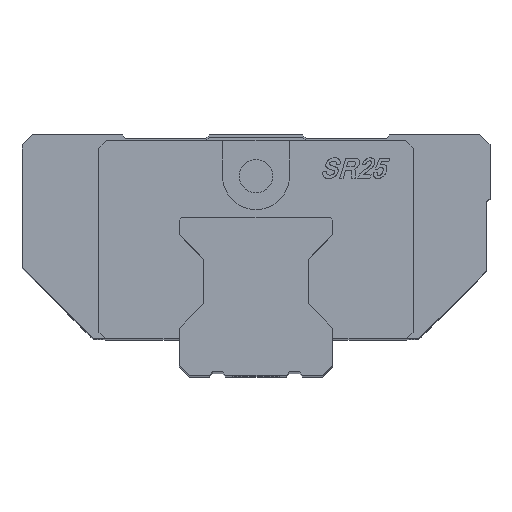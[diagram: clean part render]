
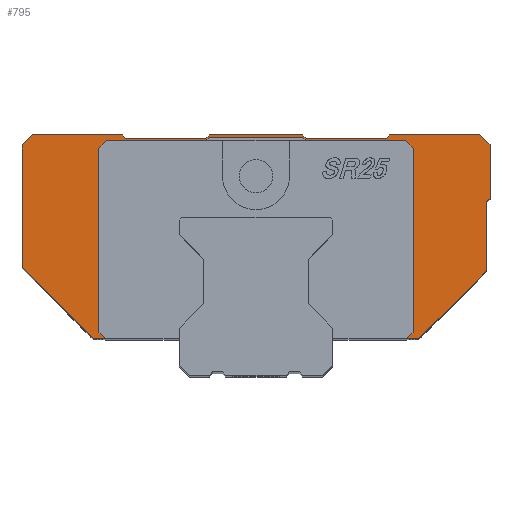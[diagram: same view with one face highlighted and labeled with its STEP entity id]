
A CAD part, top view. The second image highlights one B-rep face of the part: STEP entity #795.
In plain terms, the highlighted planar face has unit normal (0, 0, 1).
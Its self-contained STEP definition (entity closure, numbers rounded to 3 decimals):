
#795=ADVANCED_FACE('',(#1180),#1044,.T.);
#1044=PLANE('',#5500);
#1180=FACE_OUTER_BOUND('',#1453,.T.);
#1453=EDGE_LOOP('',(#2182,#2183,#2184,#2185,#2186,#2187,#2188,#2189,#2190,
#2191,#2192,#2193,#2194,#2195,#2196,#2197,#2198,#2199,#2200,#2201,#2202,
#2203,#2204,#2205,#2206,#2207,#2208,#2209,#2210,#2211));
#2182=ORIENTED_EDGE('',*,*,#4005,.F.);
#2183=ORIENTED_EDGE('',*,*,#4006,.F.);
#2184=ORIENTED_EDGE('',*,*,#4007,.F.);
#2185=ORIENTED_EDGE('',*,*,#4008,.F.);
#2186=ORIENTED_EDGE('',*,*,#4009,.F.);
#2187=ORIENTED_EDGE('',*,*,#4010,.F.);
#2188=ORIENTED_EDGE('',*,*,#4011,.F.);
#2189=ORIENTED_EDGE('',*,*,#4012,.F.);
#2190=ORIENTED_EDGE('',*,*,#4013,.F.);
#2191=ORIENTED_EDGE('',*,*,#4014,.F.);
#2192=ORIENTED_EDGE('',*,*,#4015,.F.);
#2193=ORIENTED_EDGE('',*,*,#4016,.F.);
#2194=ORIENTED_EDGE('',*,*,#4017,.F.);
#2195=ORIENTED_EDGE('',*,*,#4018,.F.);
#2196=ORIENTED_EDGE('',*,*,#4019,.F.);
#2197=ORIENTED_EDGE('',*,*,#4020,.F.);
#2198=ORIENTED_EDGE('',*,*,#4021,.F.);
#2199=ORIENTED_EDGE('',*,*,#4022,.F.);
#2200=ORIENTED_EDGE('',*,*,#4023,.F.);
#2201=ORIENTED_EDGE('',*,*,#3971,.F.);
#2202=ORIENTED_EDGE('',*,*,#3980,.F.);
#2203=ORIENTED_EDGE('',*,*,#3982,.F.);
#2204=ORIENTED_EDGE('',*,*,#3989,.F.);
#2205=ORIENTED_EDGE('',*,*,#3992,.F.);
#2206=ORIENTED_EDGE('',*,*,#4004,.F.);
#2207=ORIENTED_EDGE('',*,*,#4024,.F.);
#2208=ORIENTED_EDGE('',*,*,#4025,.F.);
#2209=ORIENTED_EDGE('',*,*,#3997,.F.);
#2210=ORIENTED_EDGE('',*,*,#4026,.F.);
#2211=ORIENTED_EDGE('',*,*,#4027,.F.);
#3419=VERTEX_POINT('',#7776);
#3420=VERTEX_POINT('',#7777);
#3426=VERTEX_POINT('',#7793);
#3427=VERTEX_POINT('',#7797);
#3433=VERTEX_POINT('',#7814);
#3435=VERTEX_POINT('',#7819);
#3438=VERTEX_POINT('',#7827);
#3439=VERTEX_POINT('',#7829);
#3443=VERTEX_POINT('',#7841);
#3444=VERTEX_POINT('',#7845);
#3445=VERTEX_POINT('',#7846);
#3446=VERTEX_POINT('',#7848);
#3447=VERTEX_POINT('',#7850);
#3448=VERTEX_POINT('',#7852);
#3449=VERTEX_POINT('',#7854);
#3450=VERTEX_POINT('',#7856);
#3451=VERTEX_POINT('',#7858);
#3452=VERTEX_POINT('',#7860);
#3453=VERTEX_POINT('',#7862);
#3454=VERTEX_POINT('',#7864);
#3455=VERTEX_POINT('',#7866);
#3456=VERTEX_POINT('',#7868);
#3457=VERTEX_POINT('',#7870);
#3458=VERTEX_POINT('',#7872);
#3459=VERTEX_POINT('',#7874);
#3460=VERTEX_POINT('',#7876);
#3461=VERTEX_POINT('',#7878);
#3462=VERTEX_POINT('',#7880);
#3463=VERTEX_POINT('',#7883);
#3464=VERTEX_POINT('',#7886);
#3971=EDGE_CURVE('',#3419,#3420,#4564,.T.);
#3980=EDGE_CURVE('',#3426,#3419,#4571,.T.);
#3982=EDGE_CURVE('',#3427,#3426,#4573,.T.);
#3989=EDGE_CURVE('',#3433,#3427,#4575,.T.);
#3992=EDGE_CURVE('',#3435,#3433,#4578,.T.);
#3997=EDGE_CURVE('',#3438,#3439,#4583,.T.);
#4004=EDGE_CURVE('',#3443,#3435,#4590,.T.);
#4005=EDGE_CURVE('',#3444,#3445,#4591,.T.);
#4006=EDGE_CURVE('',#3446,#3444,#4592,.T.);
#4007=EDGE_CURVE('',#3447,#3446,#4593,.T.);
#4008=EDGE_CURVE('',#3448,#3447,#4594,.T.);
#4009=EDGE_CURVE('',#3449,#3448,#4595,.T.);
#4010=EDGE_CURVE('',#3450,#3449,#4596,.T.);
#4011=EDGE_CURVE('',#3451,#3450,#4597,.T.);
#4012=EDGE_CURVE('',#3452,#3451,#4598,.T.);
#4013=EDGE_CURVE('',#3453,#3452,#4599,.T.);
#4014=EDGE_CURVE('',#3454,#3453,#4600,.T.);
#4015=EDGE_CURVE('',#3455,#3454,#4601,.T.);
#4016=EDGE_CURVE('',#3456,#3455,#4602,.T.);
#4017=EDGE_CURVE('',#3457,#3456,#4603,.T.);
#4018=EDGE_CURVE('',#3458,#3457,#4604,.T.);
#4019=EDGE_CURVE('',#3459,#3458,#4605,.T.);
#4020=EDGE_CURVE('',#3460,#3459,#4606,.T.);
#4021=EDGE_CURVE('',#3461,#3460,#4607,.T.);
#4022=EDGE_CURVE('',#3462,#3461,#4608,.T.);
#4023=EDGE_CURVE('',#3420,#3462,#4609,.T.);
#4024=EDGE_CURVE('',#3463,#3443,#4610,.T.);
#4025=EDGE_CURVE('',#3439,#3463,#4611,.T.);
#4026=EDGE_CURVE('',#3464,#3438,#4612,.T.);
#4027=EDGE_CURVE('',#3445,#3464,#4613,.T.);
#4564=LINE('',#7775,#5004);
#4571=LINE('',#7792,#5011);
#4573=LINE('',#7796,#5013);
#4575=LINE('',#7813,#5015);
#4578=LINE('',#7820,#5018);
#4583=LINE('',#7828,#5023);
#4590=LINE('',#7842,#5030);
#4591=LINE('',#7844,#5031);
#4592=LINE('',#7847,#5032);
#4593=LINE('',#7849,#5033);
#4594=LINE('',#7851,#5034);
#4595=LINE('',#7853,#5035);
#4596=LINE('',#7855,#5036);
#4597=LINE('',#7857,#5037);
#4598=LINE('',#7859,#5038);
#4599=LINE('',#7861,#5039);
#4600=LINE('',#7863,#5040);
#4601=LINE('',#7865,#5041);
#4602=LINE('',#7867,#5042);
#4603=LINE('',#7869,#5043);
#4604=LINE('',#7871,#5044);
#4605=LINE('',#7873,#5045);
#4606=LINE('',#7875,#5046);
#4607=LINE('',#7877,#5047);
#4608=LINE('',#7879,#5048);
#4609=LINE('',#7881,#5049);
#4610=LINE('',#7882,#5050);
#4611=LINE('',#7884,#5051);
#4612=LINE('',#7885,#5052);
#4613=LINE('',#7887,#5053);
#5004=VECTOR('',#6084,1.);
#5011=VECTOR('',#6097,1.);
#5013=VECTOR('',#6101,1.);
#5015=VECTOR('',#6121,1.);
#5018=VECTOR('',#6126,1.);
#5023=VECTOR('',#6131,1.);
#5030=VECTOR('',#6142,1.);
#5031=VECTOR('',#6145,1.);
#5032=VECTOR('',#6146,1.);
#5033=VECTOR('',#6147,1.);
#5034=VECTOR('',#6148,1.);
#5035=VECTOR('',#6149,1.);
#5036=VECTOR('',#6150,1.);
#5037=VECTOR('',#6151,1.);
#5038=VECTOR('',#6152,1.);
#5039=VECTOR('',#6153,1.);
#5040=VECTOR('',#6154,1.);
#5041=VECTOR('',#6155,1.);
#5042=VECTOR('',#6156,1.);
#5043=VECTOR('',#6157,1.);
#5044=VECTOR('',#6158,1.);
#5045=VECTOR('',#6159,1.);
#5046=VECTOR('',#6160,1.);
#5047=VECTOR('',#6161,1.);
#5048=VECTOR('',#6162,1.);
#5049=VECTOR('',#6163,1.);
#5050=VECTOR('',#6164,1.);
#5051=VECTOR('',#6165,1.);
#5052=VECTOR('',#6166,1.);
#5053=VECTOR('',#6167,1.);
#5500=AXIS2_PLACEMENT_3D('',#7888,#6168,#6169);
#6084=DIRECTION('',(-1.,0.,0.));
#6097=DIRECTION('',(0.707,-0.707,0.));
#6101=DIRECTION('',(0.,-1.,0.));
#6121=DIRECTION('',(-0.707,-0.707,0.));
#6126=DIRECTION('',(-1.,0.,0.));
#6131=DIRECTION('',(-1.,0.,0.));
#6142=DIRECTION('',(-0.707,-0.707,0.));
#6145=DIRECTION('',(0.707,0.707,0.));
#6146=DIRECTION('',(-1.,0.,0.));
#6147=DIRECTION('',(-0.707,-0.707,0.));
#6148=DIRECTION('',(0.,-1.,0.));
#6149=DIRECTION('',(-0.707,-0.707,0.));
#6150=DIRECTION('',(0.,-1.,0.));
#6151=DIRECTION('',(0.707,-0.707,0.));
#6152=DIRECTION('',(1.,0.,0.));
#6153=DIRECTION('',(0.707,0.707,0.));
#6154=DIRECTION('',(1.,0.,0.));
#6155=DIRECTION('',(0.707,-0.707,0.));
#6156=DIRECTION('',(1.,0.,0.));
#6157=DIRECTION('',(0.707,0.707,0.));
#6158=DIRECTION('',(1.,0.,0.));
#6159=DIRECTION('',(0.707,-0.707,0.));
#6160=DIRECTION('',(1.,0.,0.));
#6161=DIRECTION('',(0.707,0.707,0.));
#6162=DIRECTION('',(0.,1.,0.));
#6163=DIRECTION('',(-0.707,0.707,0.));
#6164=DIRECTION('',(-1.,0.,0.));
#6165=DIRECTION('',(-0.707,0.707,0.));
#6166=DIRECTION('',(-0.707,0.707,0.));
#6167=DIRECTION('',(0.,1.,0.));
#6168=DIRECTION('',(0.,0.,1.));
#6169=DIRECTION('',(1.,0.,0.));
#7775=CARTESIAN_POINT('',(-22.5,-30.5,40.5));
#7776=CARTESIAN_POINT('',(-22.5,-30.5,40.5));
#7777=CARTESIAN_POINT('',(-24.338,-30.5,40.5));
#7792=CARTESIAN_POINT('',(-23.5,-29.5,40.5));
#7793=CARTESIAN_POINT('',(-23.5,-29.5,40.5));
#7796=CARTESIAN_POINT('',(-23.5,-2.,40.5));
#7797=CARTESIAN_POINT('',(-23.5,-2.,40.5));
#7813=CARTESIAN_POINT('',(-22.4,-0.9,40.5));
#7814=CARTESIAN_POINT('',(-22.4,-0.9,40.5));
#7819=CARTESIAN_POINT('',(-7.5,-0.9,40.5));
#7820=CARTESIAN_POINT('',(-7.5,-0.9,40.5));
#7827=CARTESIAN_POINT('',(22.4,-0.9,40.5));
#7828=CARTESIAN_POINT('',(22.4,-0.9,40.5));
#7829=CARTESIAN_POINT('',(7.5,-0.9,40.5));
#7841=CARTESIAN_POINT('',(-7.,-0.4,40.5));
#7842=CARTESIAN_POINT('',(-7.,-0.4,40.5));
#7844=CARTESIAN_POINT('',(22.5,-30.5,40.5));
#7845=CARTESIAN_POINT('',(22.5,-30.5,40.5));
#7846=CARTESIAN_POINT('',(23.5,-29.5,40.5));
#7847=CARTESIAN_POINT('',(24.338,-30.5,40.5));
#7848=CARTESIAN_POINT('',(24.338,-30.5,40.5));
#7849=CARTESIAN_POINT('',(34.5,-20.338,40.5));
#7850=CARTESIAN_POINT('',(34.5,-20.338,40.5));
#7851=CARTESIAN_POINT('',(34.5,-10.,40.5));
#7852=CARTESIAN_POINT('',(34.5,-10.,40.5));
#7853=CARTESIAN_POINT('',(35.,-9.5,40.5));
#7854=CARTESIAN_POINT('',(35.,-9.5,40.5));
#7855=CARTESIAN_POINT('',(35.,-1.5,40.5));
#7856=CARTESIAN_POINT('',(35.,-1.5,40.5));
#7857=CARTESIAN_POINT('',(33.5,0.,40.5));
#7858=CARTESIAN_POINT('',(33.5,0.,40.5));
#7859=CARTESIAN_POINT('',(20.,0.,40.5));
#7860=CARTESIAN_POINT('',(20.,0.,40.5));
#7861=CARTESIAN_POINT('',(19.5,-0.5,40.5));
#7862=CARTESIAN_POINT('',(19.5,-0.5,40.5));
#7863=CARTESIAN_POINT('',(7.5,-0.5,40.5));
#7864=CARTESIAN_POINT('',(7.5,-0.5,40.5));
#7865=CARTESIAN_POINT('',(7.,0.,40.5));
#7866=CARTESIAN_POINT('',(7.,0.,40.5));
#7867=CARTESIAN_POINT('',(-7.,0.,40.5));
#7868=CARTESIAN_POINT('',(-7.,0.,40.5));
#7869=CARTESIAN_POINT('',(-7.5,-0.5,40.5));
#7870=CARTESIAN_POINT('',(-7.5,-0.5,40.5));
#7871=CARTESIAN_POINT('',(-19.5,-0.5,40.5));
#7872=CARTESIAN_POINT('',(-19.5,-0.5,40.5));
#7873=CARTESIAN_POINT('',(-20.,0.,40.5));
#7874=CARTESIAN_POINT('',(-20.,0.,40.5));
#7875=CARTESIAN_POINT('',(-33.5,0.,40.5));
#7876=CARTESIAN_POINT('',(-33.5,0.,40.5));
#7877=CARTESIAN_POINT('',(-35.,-1.5,40.5));
#7878=CARTESIAN_POINT('',(-35.,-1.5,40.5));
#7879=CARTESIAN_POINT('',(-35.,-19.838,40.5));
#7880=CARTESIAN_POINT('',(-35.,-19.838,40.5));
#7881=CARTESIAN_POINT('',(-24.338,-30.5,40.5));
#7882=CARTESIAN_POINT('',(7.,-0.4,40.5));
#7883=CARTESIAN_POINT('',(7.,-0.4,40.5));
#7884=CARTESIAN_POINT('',(7.5,-0.9,40.5));
#7885=CARTESIAN_POINT('',(23.5,-2.,40.5));
#7886=CARTESIAN_POINT('',(23.5,-2.,40.5));
#7887=CARTESIAN_POINT('',(23.5,-29.5,40.5));
#7888=CARTESIAN_POINT('',(-38.5,-32.025,40.5));
